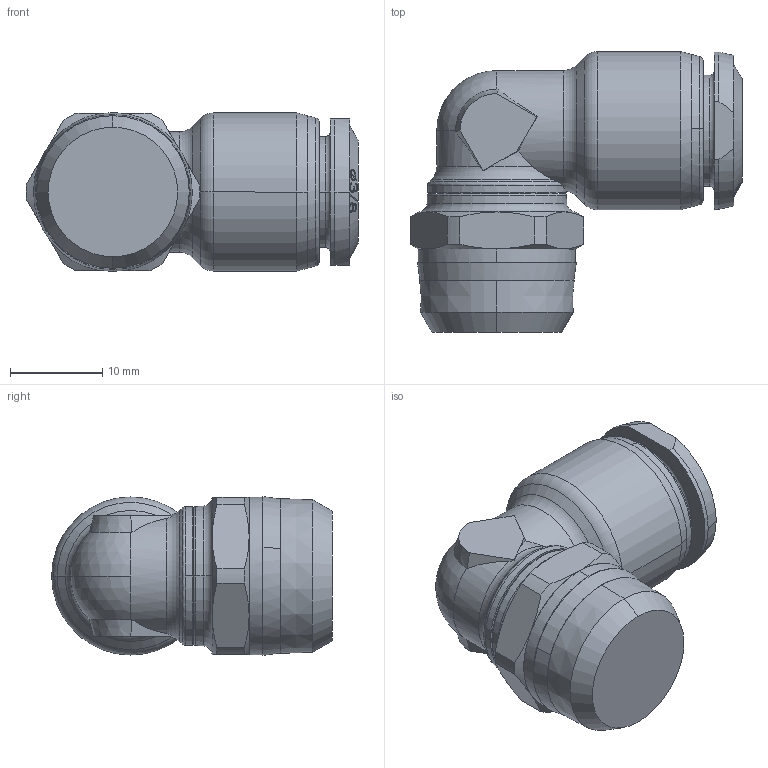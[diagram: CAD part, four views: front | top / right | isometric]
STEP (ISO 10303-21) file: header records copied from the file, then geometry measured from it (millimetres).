
FILE_DESCRIPTION (( 'STEP AP203' ), '1' );
FILE_NAME ('8511100015A.step', '2012-10-31T14:29:11', ( '' ), ( '' ), 'SwSTEP 2.0', 'SolidWorks 2012', '' );
FILE_SCHEMA (( 'CONFIG_CONTROL_DESIGN' ));
Length unit declared in the file: millimetre
Products named in the file (1): 8511100015A
Bounding box: 35.9 x 30.35 x 17.17 mm (x, y, z)
Volume: 9080.9 mm3; surface area: 3062.2 mm2
Topology: 1 solids, 1 shells, 181 faces, 454 edges, 287 vertices
Faces by surface type: bspline 58, cone 48, plane 35, cylinder 24, torus 14, sphere 2
Entity records: 9637 total; most frequent: CARTESIAN_POINT 5801, ORIENTED_EDGE 908, DIRECTION 584, EDGE_CURVE 454, VERTEX_POINT 287, AXIS2_PLACEMENT_3D 250, B_SPLINE_CURVE_WITH_KNOTS 230, EDGE_LOOP 193
